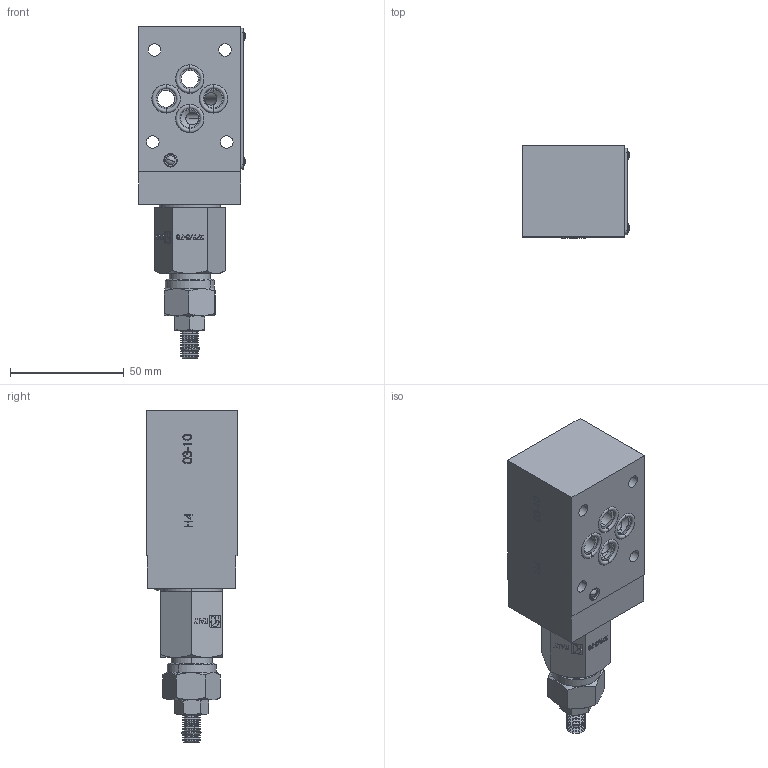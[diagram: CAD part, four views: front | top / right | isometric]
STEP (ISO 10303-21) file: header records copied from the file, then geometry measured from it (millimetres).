
FILE_DESCRIPTION (( 'STEP AP214' ), '1' );
FILE_NAME ('FT379-3-P-03.STEP', '2014-06-18T12:27:05', ( '' ), ( '' ), 'SwSTEP 2.0', 'SolidWorks 2014', '' );
FILE_SCHEMA (( 'AUTOMOTIVE_DESIGN' ));
Length unit declared in the file: millimetre
Products named in the file (21): 279_3-78; Anello sicurezza; OR2050; AnelloFT267_2-38; OR3075; gRANO M8x25 UNI 5923; DADO M8 UNI 5588; MOLLA-10; 279_3047000-78; 279_3034020-78; 279_3034010-78; 279_3019000-78; 279_3011000-34; 279_3012000-34; 279_3101000-78; RivettoTarga; 379-3-P015000; 379-3-P001000; TAPPO KOENING D=6 mm; OR2037; FT379-3-P-03
Assembly tree (28 placements, depth 3):
  FT379-3-P-03
    379-3-P001000
    379-3-P015000
    RivettoTarga  x4
    279_3-78
      279_3101000-78
      279_3012000-34
      279_3011000-34
      279_3019000-78
      279_3034010-78
      279_3034020-78
      279_3047000-78
      MOLLA-10
      DADO M8 UNI 5588
      gRANO M8x25 UNI 5923
      OR3075
      AnelloFT267_2-38  x2
      OR2050
      Anello sicurezza
    OR2037  x4
    TAPPO KOENING D=6 mm  x2
Bounding box: 46.96 x 40.38 x 145.91 mm (x, y, z)
Volume: 151783.2 mm3; surface area: 53494.5 mm2
Topology: 27 solids, 27 shells, 2350 faces, 5775 edges, 3680 vertices
Faces by surface type: plane 1173, bspline 428, cone 390, cylinder 307, torus 48, sphere 4
Entity records: 107607 total; most frequent: CARTESIAN_POINT 41595, ORIENTED_EDGE 11062, DIRECTION 9078, EDGE_CURVE 5531, LINE 3654, VECTOR 3654, VERTEX_POINT 3543, AXIS2_PLACEMENT_3D 2712
